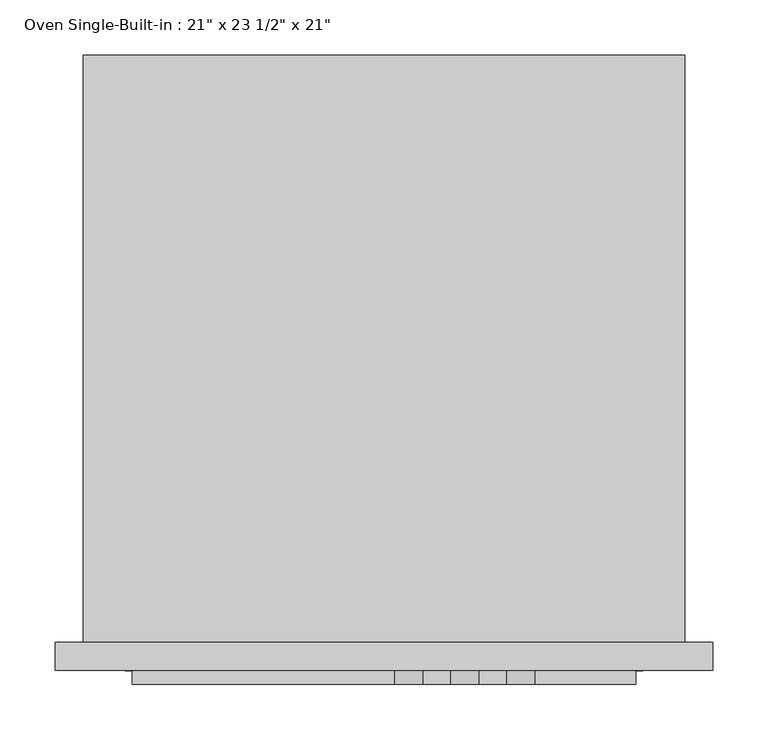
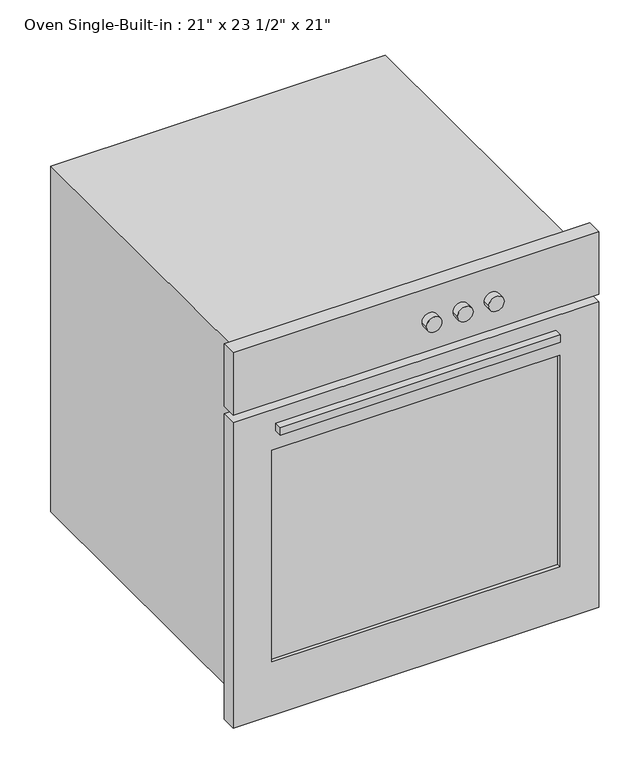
"""IFC4 building model written with IfcOpenShell, lengths in millimetres: proxy geometry."""

from ifc_helpers import new_model, si_unit, point, frame, frame_2d, origin, place, context, project, spatial, polyline, circle_curve, trimmed, segment, composite_curve, outline, extrude, faceted_brep, source, transform, mapped, element, save


def proxy_34c9623a(model_context):
    return source(origin(), model_context, "Body", "SolidModel", [
        faceted_brep([(237.8750727, -125.6341411, 838.2), (-308.2249273, -125.6341411, 838.2), (-308.2249273, -125.6341411, 241.3), (237.8750727, -125.6341411, 241.3), (212.4750727, -125.6341411, 812.8), (212.4750727, -125.6341411, 266.7), (-282.8249273, -125.6341411, 266.7), (-282.8249273, -125.6341411, 812.8), (237.8750727, 407.7658589, 838.2), (237.8750727, 407.7658589, 241.3), (-308.2249273, 407.7658589, 241.3), (-308.2249273, 407.7658589, 838.2), (212.4750727, 382.1090259, 812.8), (212.4750727, 382.1090259, 266.7), (-282.8249273, 382.1090259, 266.7), (-282.8249273, 382.1090259, 812.8)], [[[0, 1, 2, 3], [4, 5, 6, 7]], [[8, 9, 10, 11]], [[1, 0, 8, 11]], [[2, 1, 11, 10]], [[3, 2, 10, 9]], [[0, 3, 9, 8]], [[5, 4, 12, 13]], [[6, 5, 13, 14]], [[7, 6, 14, 15]], [[4, 7, 15, 12]], [[13, 12, 15, 14]]]),
        extrude(outline(polyline([(212.4750727, -125.6341411), (-282.8249273, -125.6341411), (-282.8249273, -100.2341411), (212.4750727, -100.2341411), (212.4750727, -125.6341411)])), frame((0.0, 0.0, 717.6220137), z_axis=(0.0, 0.0, 1.0), x_axis=(1.0, 0.0, 0.0)), (0.0, 0.0, 1.0), 95.1779863),
        extrude(outline(composite_curve([segment(trimmed(circle_curve(frame_2d((807.921693, -12.6998447)), 12.7), [point((807.921693, -25.3998447))], [point((807.921693, 0.0001553))], False, "CARTESIAN"), True, "CONTINUOUS"), segment(trimmed(circle_curve(frame_2d((807.921693, -12.6998447)), 12.7), [point((807.921693, 0.0001553))], [point((807.921693, -25.3998447))], False, "CARTESIAN"), True, "CONTINUOUS")], self_intersect=False)), frame((0.0, -163.7341411, 0.0), z_axis=(0.0, 1.0, 0.0), x_axis=(0.0, 0.0, 1.0)), (0.0, 0.0, 1.0), 12.7),
        extrude(outline(composite_curve([segment(trimmed(circle_curve(frame_2d((807.921693, 38.1001553)), 12.7), [point((807.921693, 25.4001553))], [point((807.921693, 50.8001553))], False, "CARTESIAN"), True, "CONTINUOUS"), segment(trimmed(circle_curve(frame_2d((807.921693, 38.1001553)), 12.7), [point((807.921693, 50.8001553))], [point((807.921693, 25.4001553))], False, "CARTESIAN"), True, "CONTINUOUS")], self_intersect=False)), frame((0.0, -163.7341411, 0.0), z_axis=(0.0, 1.0, 0.0), x_axis=(0.0, 0.0, 1.0)), (0.0, 0.0, 1.0), 12.7),
        extrude(outline(composite_curve([segment(trimmed(circle_curve(frame_2d((807.921693, 88.9001553)), 12.7), [point((807.921693, 76.2001553))], [point((807.921693, 101.6001553))], False, "CARTESIAN"), True, "CONTINUOUS"), segment(trimmed(circle_curve(frame_2d((807.921693, 88.9001553)), 12.7), [point((807.921693, 101.6001553))], [point((807.921693, 76.2001553))], False, "CARTESIAN"), True, "CONTINUOUS")], self_intersect=False)), frame((0.0, -163.7341411, 0.0), z_axis=(0.0, 1.0, 0.0), x_axis=(0.0, 0.0, 1.0)), (0.0, 0.0, 1.0), 12.7),
        extrude(outline(polyline([(193.4250727, -163.7341411), (-263.7749273, -163.7341411), (-263.7749273, -151.0341411), (193.4250727, -151.0341411), (193.4250727, -163.7341411)])), frame((0.0, 0.0, 704.9220137), z_axis=(0.0, 0.0, 1.0), x_axis=(1.0, 0.0, 0.0)), (0.0, 0.0, 1.0), 12.7),
        extrude(outline(polyline([(199.7750727, -144.6841411), (-270.1249273, -144.6841411), (-270.1249273, -138.3341411), (199.7750727, -138.3341411), (199.7750727, -144.6841411)])), frame((0.0, 0.0, 307.975), z_axis=(0.0, 0.0, 1.0), x_axis=(1.0, 0.0, 0.0)), (0.0, 0.0, 1.0), 365.125),
        extrude(outline(polyline([(263.2750727, -151.0341411), (-333.6249273, -151.0341411), (-333.6249273, -125.6341411), (263.2750727, -125.6341411), (263.2750727, -151.0341411)])), frame((0.0, 0.0, 755.65), z_axis=(0.0, 0.0, 1.0), x_axis=(1.0, 0.0, 0.0)), (0.0, 0.0, 1.0), 107.95),
        extrude(outline(polyline([(742.95, 263.2750727), (742.95, -333.6249273), (215.9, -333.6249273), (215.9, 263.2750727), (742.95, 263.2750727)]), holes=[polyline([(673.1, 199.7750727), (307.975, 199.7750727), (307.975, -270.1249273), (673.1, -270.1249273), (673.1, 199.7750727)])]), frame((0.0, -151.0341411, 0.0), z_axis=(0.0, 1.0, 0.0), x_axis=(0.0, 0.0, 1.0)), (0.0, 0.0, 1.0), 25.4),
    ])


if __name__ == "__main__":
    model = new_model("IFC4")
    model_context = context("Model", 3, world=origin())
    ifc_project = project(units=[si_unit("LENGTHUNIT", "METRE", prefix="MILLI")], contexts=[model_context])
    site = spatial("IfcSite", under=ifc_project)
    building = spatial("IfcBuilding", under=site)
    placement = place(None, origin())
    proxy_shape = proxy_34c9623a(model_context)
    element("IfcBuildingElementProxy", 1, Name="Oven Single-Built-in : 21\" x 23 1/2\" x 21\"", ObjectType="Oven Single-Built-in : 21\" x 23 1/2\" x 21\"", at=placement, inside=building, context=model_context, shape_type="MappedRepresentation", body=[
        mapped(proxy_shape, transform((0.0, 0.0, 0.0), x_axis=(1.0, 0.0, 0.0), y_axis=(0.0, 1.0, 0.0), z_axis=(0.0, 0.0, 1.0))),
    ])
    save(model, "model.ifc")
